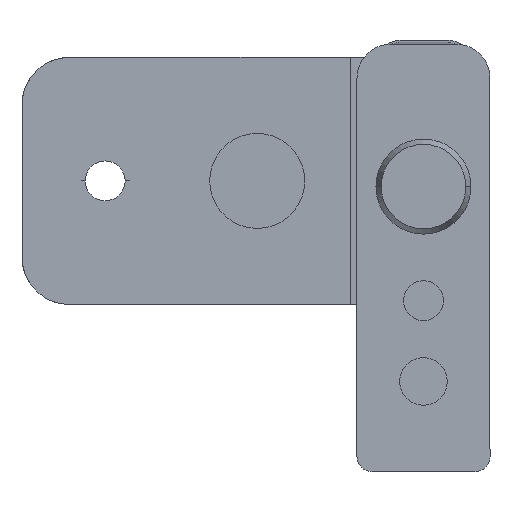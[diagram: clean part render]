
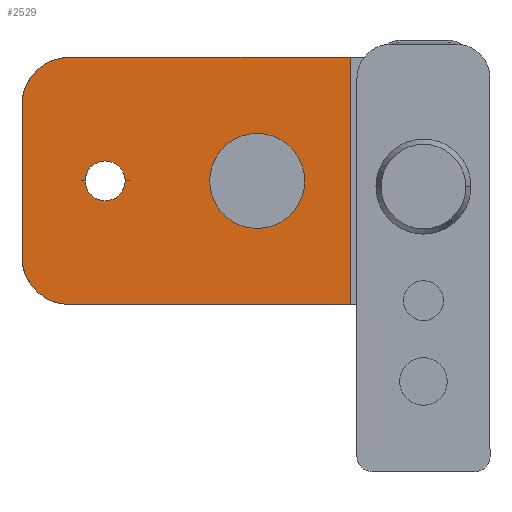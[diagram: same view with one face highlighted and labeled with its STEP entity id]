
A CAD part, front view. The second image highlights one B-rep face of the part: STEP entity #2529.
In plain terms, the highlighted planar face has unit normal (0, -1, 0).
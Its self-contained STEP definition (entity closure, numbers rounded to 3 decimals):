
#52 = CARTESIAN_POINT ( 'NONE',  ( -37.25, 297., 13.6 ) ) ;
#246 = CARTESIAN_POINT ( 'NONE',  ( -33.5, 297., 0.6 ) ) ;
#247 = DIRECTION ( 'NONE',  ( 0., 1., 0. ) ) ;
#248 = DIRECTION ( 'NONE',  ( -1., 0., 0. ) ) ;
#327 = VERTEX_POINT ( 'NONE', #3126 ) ;
#442 = CARTESIAN_POINT ( 'NONE',  ( -37.25, 297., 8.6 ) ) ;
#443 = DIRECTION ( 'NONE',  ( 0., -1., 0. ) ) ;
#444 = DIRECTION ( 'NONE',  ( -1., 0., 0. ) ) ;
#745 = CARTESIAN_POINT ( 'NONE',  ( -42.25, 297., 13.6 ) ) ;
#746 = DIRECTION ( 'NONE',  ( 0., 0., -1. ) ) ;
#803 = CARTESIAN_POINT ( 'NONE',  ( -37.25, 297., -7.4 ) ) ;
#804 = DIRECTION ( 'NONE',  ( 0., -1., 0. ) ) ;
#805 = DIRECTION ( 'NONE',  ( -1., 0., 0. ) ) ;
#817 = CARTESIAN_POINT ( 'NONE',  ( -42.25, 297., 13.6 ) ) ;
#887 = VERTEX_POINT ( 'NONE', #1311 ) ;
#1104 = DIRECTION ( 'NONE',  ( 1., 0., 0. ) ) ;
#1109 = CARTESIAN_POINT ( 'NONE',  ( -33.5, 297., 0.6 ) ) ;
#1110 = DIRECTION ( 'NONE',  ( 0., 1., 0. ) ) ;
#1111 = DIRECTION ( 'NONE',  ( -1., 0., 0. ) ) ;
#1112 = CARTESIAN_POINT ( 'NONE',  ( -42.25, 297., -12.4 ) ) ;
#1113 = DIRECTION ( 'NONE',  ( 1., 0., 0. ) ) ;
#1256 = ORIENTED_EDGE ( 'NONE', *, *, #3502, .T. ) ;
#1285 = ORIENTED_EDGE ( 'NONE', *, *, #2245, .F. ) ;
#1296 = ORIENTED_EDGE ( 'NONE', *, *, #2207, .F. ) ;
#1311 = CARTESIAN_POINT ( 'NONE',  ( -42.25, 297., -7.4 ) ) ;
#1417 = ORIENTED_EDGE ( 'NONE', *, *, #2249, .T. ) ;
#1421 = ORIENTED_EDGE ( 'NONE', *, *, #2240, .T. ) ;
#1422 = ORIENTED_EDGE ( 'NONE', *, *, #2220, .T. ) ;
#1950 = VERTEX_POINT ( 'NONE', #3018 ) ;
#1958 = VERTEX_POINT ( 'NONE', #3026 ) ;
#1986 = ORIENTED_EDGE ( 'NONE', *, *, #4701, .T. ) ;
#1987 = ORIENTED_EDGE ( 'NONE', *, *, #2248, .T. ) ;
#2124 = VERTEX_POINT ( 'NONE', #3065 ) ;
#2207 = EDGE_CURVE ( 'NONE', #4617, #4610, #3877, .T. ) ;
#2220 = EDGE_CURVE ( 'NONE', #1958, #887, #3898, .T. ) ;
#2240 = EDGE_CURVE ( 'NONE', #887, #2124, #3931, .T. ) ;
#2245 = EDGE_CURVE ( 'NONE', #2303, #4617, #3939, .T. ) ;
#2248 = EDGE_CURVE ( 'NONE', #1950, #327, #3946, .T. ) ;
#2249 = EDGE_CURVE ( 'NONE', #2124, #4610, #3945, .T. ) ;
#2303 = VERTEX_POINT ( 'NONE', #52 ) ;
#2529 = ADVANCED_FACE ( 'NONE', ( #3994, #3995 ), #3571, .F. ) ;
#2656 = AXIS2_PLACEMENT_3D ( 'NONE', #803, #804, #805 ) ;
#2658 = AXIS2_PLACEMENT_3D ( 'NONE', #1109, #1110, #1111 ) ;
#2685 = AXIS2_PLACEMENT_3D ( 'NONE', #3572, #3573, #3574 ) ;
#2797 = AXIS2_PLACEMENT_3D ( 'NONE', #442, #443, #444 ) ;
#2837 = AXIS2_PLACEMENT_3D ( 'NONE', #246, #247, #248 ) ;
#2977 = CARTESIAN_POINT ( 'NONE',  ( -7.7, 297., -12.4 ) ) ;
#2984 = CARTESIAN_POINT ( 'NONE',  ( -7.7, 297., 13.6 ) ) ;
#3018 = CARTESIAN_POINT ( 'NONE',  ( -35.6, 297., 0.6 ) ) ;
#3026 = CARTESIAN_POINT ( 'NONE',  ( -42.25, 297., 8.6 ) ) ;
#3065 = CARTESIAN_POINT ( 'NONE',  ( -37.25, 297., -12.4 ) ) ;
#3073 = CARTESIAN_POINT ( 'NONE',  ( -7.7, 297., 13.6 ) ) ;
#3074 = DIRECTION ( 'NONE',  ( 0., 0., -1. ) ) ;
#3126 = CARTESIAN_POINT ( 'NONE',  ( -31.4, 297., 0.6 ) ) ;
#3502 = EDGE_CURVE ( 'NONE', #2303, #1958, #4210, .T. ) ;
#3571 = PLANE ( 'NONE',  #2685 ) ;
#3572 = CARTESIAN_POINT ( 'NONE',  ( -42.25, 297., 13.6 ) ) ;
#3573 = DIRECTION ( 'NONE',  ( 0., 1., 0. ) ) ;
#3574 = DIRECTION ( 'NONE',  ( -1., 0., 0. ) ) ;
#3877 = LINE ( 'NONE', #3073, #3878 ) ;
#3878 = VECTOR ( 'NONE', #3074, 1000. ) ;
#3898 = LINE ( 'NONE', #745, #3899 ) ;
#3899 = VECTOR ( 'NONE', #746, 1000. ) ;
#3931 = CIRCLE ( 'NONE', #2656, 5. ) ;
#3939 = LINE ( 'NONE', #817, #3940 ) ;
#3940 = VECTOR ( 'NONE', #1104, 1000. ) ;
#3945 = LINE ( 'NONE', #1112, #3947 ) ;
#3946 = CIRCLE ( 'NONE', #2658, 2.1 ) ;
#3947 = VECTOR ( 'NONE', #1113, 1000. ) ;
#3994 = FACE_BOUND ( 'NONE', #4495, .T. ) ;
#3995 = FACE_OUTER_BOUND ( 'NONE', #4494, .T. ) ;
#4210 = CIRCLE ( 'NONE', #2797, 5. ) ;
#4348 = CIRCLE ( 'NONE', #2837, 2.1 ) ;
#4494 = EDGE_LOOP ( 'NONE', ( #1422, #1421, #1417, #1296, #1285, #1256 ) ) ;
#4495 = EDGE_LOOP ( 'NONE', ( #1987, #1986 ) ) ;
#4610 = VERTEX_POINT ( 'NONE', #2977 ) ;
#4617 = VERTEX_POINT ( 'NONE', #2984 ) ;
#4701 = EDGE_CURVE ( 'NONE', #327, #1950, #4348, .T. ) ;
